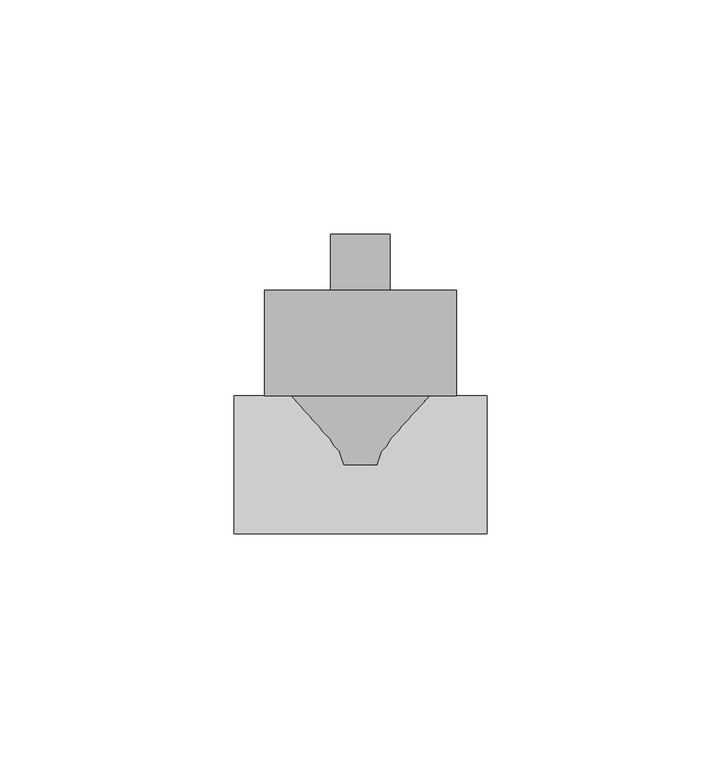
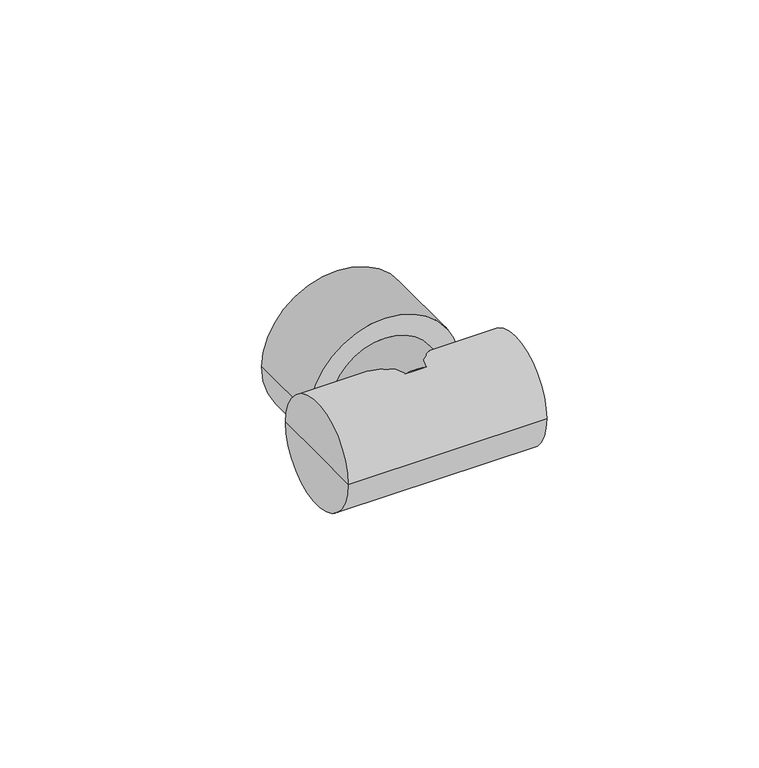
"""IFC4 building model written with IfcOpenShell, lengths in millimetres: pipe fitting geometry, KAN-therm PP trojnik gz : KAN-therm PP trojnik gz."""

from ifc_helpers import new_model, si_unit, frame, origin, place, context, project, spatial, circle_curve, source, transform, mapped, element, save
from ifc_brep_helpers import plane_surface, cylinder_surface, advanced_brep


def pipe_fitting_fa37c8a6(model_context):
    return source(origin(), model_context, "Body", "AdvancedBrep", [
        advanced_brep(
        [(-20.5, 37.25, 0.0), (20.5, 37.25, 0.0), (20.5, 14.75, 0.0), (-20.5, 14.75, 0.0), (0.0, 49.25, 0.0), (6.35, 49.25, 0.0), (-6.35, 49.25, 0.0), (-14.75, 0.0, 0.0), (14.75, 0.0, 0.0), (0.0, 0.0, 0.0), (-14.75, 14.75, 0.0), (14.75, 14.75, 0.0), (-6.35, 37.25, 0.0), (6.35, 37.25, 0.0)],
        [
            (0, 1, circle_curve(frame((0.0, 37.25, 0.0), z_axis=(0.0, -1.0, 0.0), x_axis=(1.0, 0.0, 0.0)), 20.5)),
            (1, 2),
            (2, 3, circle_curve(frame((0.0, 14.75, 0.0), z_axis=(0.0, 1.0, 0.0), x_axis=(1.0, 0.0, 0.0)), 20.5)),
            (3, 0),
            (1, 0, circle_curve(frame((0.0, 37.25, 0.0), z_axis=(0.0, -1.0, 0.0), x_axis=(1.0, 0.0, 0.0)), 20.5)),
            (3, 2, circle_curve(frame((0.0, 14.75, 0.0), z_axis=(0.0, 1.0, 0.0), x_axis=(1.0, 0.0, 0.0)), 20.5)),
            (4, 5),
            (5, 6, circle_curve(frame((0.0, 49.25, 0.0), z_axis=(0.0, 1.0, 0.0), x_axis=(1.0, 0.0, 0.0)), 6.35)),
            (6, 4),
            (6, 5, circle_curve(frame((0.0, 49.25, 0.0), z_axis=(0.0, 1.0, 0.0), x_axis=(1.0, 0.0, 0.0)), 6.35)),
            (7, 8, circle_curve(frame((0.0, 0.0, 0.0), z_axis=(0.0, -1.0, 0.0), x_axis=(1.0, 0.0, 0.0)), 14.75)),
            (8, 9),
            (9, 7),
            (8, 7, circle_curve(frame((0.0, 0.0, 0.0), z_axis=(0.0, -1.0, 0.0), x_axis=(1.0, 0.0, 0.0)), 14.75)),
            (10, 11, circle_curve(frame((0.0, 14.75, 0.0), z_axis=(0.0, -1.0, 0.0), x_axis=(1.0, 0.0, 0.0)), 14.75)),
            (11, 8),
            (7, 10),
            (11, 10, circle_curve(frame((0.0, 14.75, 0.0), z_axis=(0.0, -1.0, 0.0), x_axis=(1.0, 0.0, 0.0)), 14.75)),
            (2, 11),
            (10, 3),
            (12, 13, circle_curve(frame((0.0, 37.25, 0.0), z_axis=(0.0, -1.0, 0.0), x_axis=(1.0, 0.0, 0.0)), 6.35)),
            (13, 1),
            (0, 12),
            (13, 12, circle_curve(frame((0.0, 37.25, 0.0), z_axis=(0.0, -1.0, 0.0), x_axis=(1.0, 0.0, 0.0)), 6.35)),
            (5, 13),
            (12, 6),
        ],
        [
            cylinder_surface(frame((0.0, 2022.25, 0.0), z_axis=(0.0, 1.0, 0.0), x_axis=(1.0, 0.0, 0.0)), 20.5),
            plane_surface(frame((0.0, 49.25, 0.0), z_axis=(0.0, 1.0, 0.0), x_axis=(1.0, 0.0, 0.0))),
            plane_surface(frame((0.0, 0.0, 0.0), z_axis=(0.0, -1.0, 0.0), x_axis=(1.0, 0.0, 0.0))),
            cylinder_surface(frame((0.0, 2022.25, 0.0), z_axis=(0.0, 1.0, 0.0), x_axis=(1.0, 0.0, 0.0)), 14.75),
            plane_surface(frame((0.0, 14.75, 0.0), z_axis=(0.0, -1.0, 0.0), x_axis=(1.0, 0.0, 0.0))),
            plane_surface(frame((0.0, 37.25, 0.0), z_axis=(0.0, 1.0, 0.0), x_axis=(1.0, 0.0, 0.0))),
            cylinder_surface(frame((0.0, 2022.25, 0.0), z_axis=(0.0, 1.0, 0.0), x_axis=(1.0, 0.0, 0.0)), 6.35),
        ],
        [
            (0, [[1, 2, 3, 4]]),
            (0, [[5, -4, 6, -2]]),
            (1, [[7, 8, 9]]),
            (1, [[-9, 10, -7]]),
            (2, [[11, 12, 13]]),
            (2, [[14, -13, -12]]),
            (3, [[15, 16, -11, 17]]),
            (3, [[18, -17, -14, -16]]),
            (4, [[-3, 19, -15, 20]]),
            (4, [[-6, -20, -18, -19]]),
            (5, [[21, 22, -1, 23]]),
            (5, [[24, -23, -5, -22]]),
            (6, [[-8, 25, -21, 26]]),
            (6, [[-10, -26, -24, -25]]),
        ],
    ),
        advanced_brep(
        [(27.0, 0.0, 0.0), (27.0, -14.75, 0.0), (27.0, 14.75, 0.0), (-27.0, 14.75, 0.0), (-27.0, -14.75, 0.0), (-27.0, 0.0, 0.0)],
        [
            (0, 1),
            (1, 2, circle_curve(frame((27.0, 0.0, 0.0), z_axis=(1.0, 0.0, 0.0), x_axis=(0.0, -1.0, 0.0)), 14.75)),
            (2, 0),
            (2, 1, circle_curve(frame((27.0, 0.0, 0.0), z_axis=(1.0, 0.0, 0.0), x_axis=(0.0, -1.0, 0.0)), 14.75)),
            (3, 4, circle_curve(frame((-27.0, 0.0, 0.0), z_axis=(-1.0, 0.0, 0.0), x_axis=(0.0, -1.0, 0.0)), 14.75)),
            (4, 5),
            (5, 3),
            (4, 3, circle_curve(frame((-27.0, 0.0, 0.0), z_axis=(-1.0, 0.0, 0.0), x_axis=(0.0, -1.0, 0.0)), 14.75)),
            (1, 4),
            (3, 2),
        ],
        [
            plane_surface(frame((27.0, 0.0, 0.0), z_axis=(1.0, 0.0, 0.0), x_axis=(0.0, -1.0, 0.0))),
            plane_surface(frame((-27.0, 0.0, 0.0), z_axis=(-1.0, 0.0, 0.0), x_axis=(0.0, -1.0, 0.0))),
            cylinder_surface(frame((1999.5, 0.0, 0.0), z_axis=(1.0, 0.0, 0.0), x_axis=(0.0, -1.0, 0.0)), 14.75),
        ],
        [
            (0, [[1, 2, 3]]),
            (0, [[-3, 4, -1]]),
            (1, [[5, 6, 7]]),
            (1, [[8, -7, -6]]),
            (2, [[-2, 9, -5, 10]]),
            (2, [[-4, -10, -8, -9]]),
        ],
    ),
    ])


if __name__ == "__main__":
    model = new_model("IFC4")
    model_context = context("Model", 3, world=origin())
    ifc_project = project(units=[si_unit("LENGTHUNIT", "METRE", prefix="MILLI")], contexts=[model_context])
    site = spatial("IfcSite", under=ifc_project)
    building = spatial("IfcBuilding", under=site)
    placement = place(None, origin())
    pipe_fitting_shape = pipe_fitting_fa37c8a6(model_context)
    element("IfcPipeFitting", 1, ObjectType="KAN-therm PP trojnik gz : KAN-therm PP trojnik gz", at=placement, inside=building, context=model_context, shape_type="MappedRepresentation", body=[
        mapped(pipe_fitting_shape, transform((0.0, 0.0, 0.0), x_axis=(1.0, 0.0, 0.0), y_axis=(0.0, 1.0, 0.0), z_axis=(0.0, 0.0, 1.0))),
    ])
    save(model, "model.ifc")
